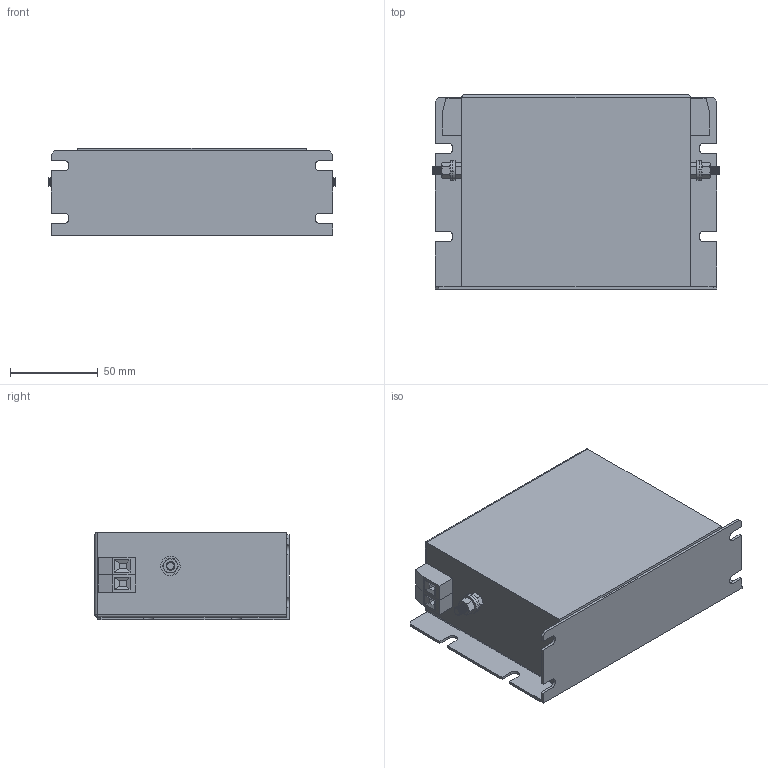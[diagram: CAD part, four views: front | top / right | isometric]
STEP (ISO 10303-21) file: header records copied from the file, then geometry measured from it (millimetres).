
FILE_DESCRIPTION (( 'STEP AP203' ), '1' );
FILE_NAME ('RF-1010, 1016-MHU.STEP', '2015-06-15T12:58:22', ( 'User' ), ( 'EPA' ), 'SwSTEP 2.0', 'SolidWorks 2008', '' );
FILE_SCHEMA (( 'CONFIG_CONTROL_DESIGN' ));
Length unit declared in the file: millimetre
Products named in the file (7): Hex Screw_AM_B18.6.7M - M5 x 0.8 x 13 Plain HHMS --13S; RF-1010, 1016-MHU; M5x13 Earth post; Flat Washer Narrow_AM_B18.22M - Plain washer, 5 mm, narrow; Hex Nut Style 1_AM_B18.2.4.1M - Hex nut, Style 1,  M5 x 0.8 --D-N; VDFK-4
Assembly tree (11 placements, depth 3):
  RF-1010, 1016-MHU
    M5x13 Earth post  x2
      Hex Screw_AM_B18.6.7M - M5 x 0.8 x 13 Plain HHMS --13S
      Flat Washer Narrow_AM_B18.22M - Plain washer, 5 mm, narrow
      Hex Nut Style 1_AM_B18.2.4.1M - Hex nut, Style 1,  M5 x 0.8 --D-N
    RF-1010, 1016-MHU
    VDFK-4  x4
Bounding box: 163.6 x 110.5 x 50 mm (x, y, z)
Volume: 718821.6 mm3; surface area: 78398.8 mm2
Topology: 13 solids, 13 shells, 526 faces, 1308 edges, 824 vertices
Faces by surface type: plane 218, cone 176, cylinder 130, sphere 2
Entity records: 8666 total; most frequent: CARTESIAN_POINT 1482, DIRECTION 1409, ORIENTED_EDGE 1290, EDGE_CURVE 645, AXIS2_PLACEMENT_3D 533, VERTEX_POINT 406, VECTOR 343, LINE 343
